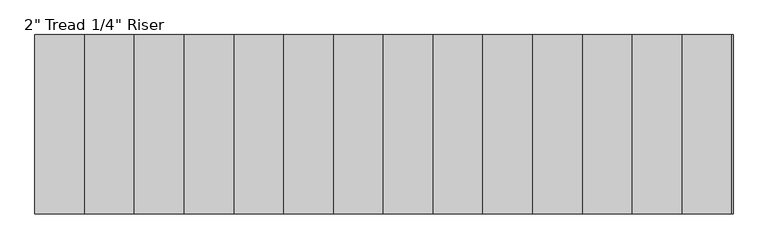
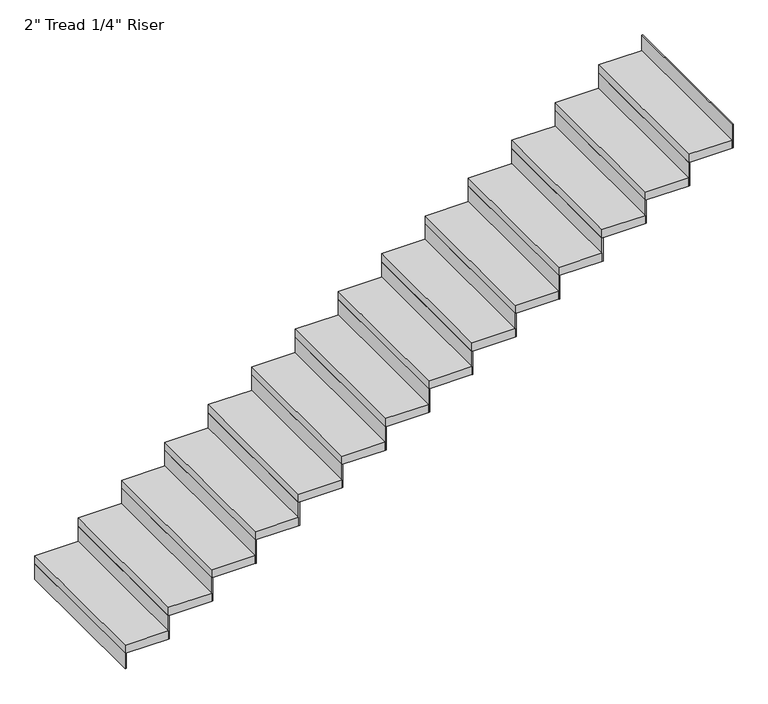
"""IFC4 building model written with IfcOpenShell, lengths in millimetres: stair flight geometry."""

import ifcopenshell
import ifcopenshell.guid

model = None  # the IFC model being written
_history = None  # IfcOwnerHistory: only IFC2X3 demands one
_inside = {}  # id of a spatial element -> (the spatial element, [elements in it])
_under = {}  # id of a project, library or spatial element -> (it, [spatial elements below it])
_declared = {}  # id of a project -> (the project, [libraries it declares])
_typed = {}  # id of a type object -> (the type object, [elements of that type])
_made_of = {}  # id of a material, layer set ... -> (it, [elements and type objects made of it])


def new_model(schema):
    """Start an empty IFC model of exactly this schema.

    Asked for "IFC4X3", IfcOpenShell would pick the latest addendum, in which some entities
    have other attributes; the version numbers below select the first issue.
    IFC2X3 requires an IfcOwnerHistory on every rooted entity: one is made here for all.
    """
    global model, _history
    if schema == "IFC4X3":
        model = ifcopenshell.file(schema_version=(4, 3, 0, 0))
    else:
        model = ifcopenshell.file(schema=schema)
    _inside.clear()
    _under.clear()
    _declared.clear()
    _typed.clear()
    _made_of.clear()
    _history = None
    if model.schema == "IFC2X3":
        org = make("IfcOrganization", Name="unknown")
        user = make(
            "IfcPersonAndOrganization",
            ThePerson=make("IfcPerson", FamilyName="unknown"),
            TheOrganization=org,
        )
        app = make(
            "IfcApplication",
            ApplicationDeveloper=org,
            Version="unknown",
            ApplicationFullName="unknown",
            ApplicationIdentifier="unknown",
        )
        _history = make(
            "IfcOwnerHistory",
            OwningUser=user,
            OwningApplication=app,
            ChangeAction="ADDED",
            CreationDate=0,
        )
    return model


def make(cls, **values):
    """One entity of the class cls with the attributes given. An attribute that is None is left unset."""
    return model.create_entity(
        cls, **{name: value for name, value in values.items() if value is not None}
    )


def rooted(cls, **values):
    """An entity with a GlobalId (a new one), such as an element, a storey or a relation."""
    return make(cls, GlobalId=ifcopenshell.guid.new(), OwnerHistory=_history, **values)


def si_unit(unit_type, name, prefix=None):
    """IfcSIUnit, for example si_unit("LENGTHUNIT", "METRE", prefix="MILLI")."""
    return make("IfcSIUnit", UnitType=unit_type, Prefix=prefix, Name=name)


def assignment(units):
    """IfcUnitAssignment: the units of a project."""
    return None if units is None else make("IfcUnitAssignment", Units=units)


def point(xyz):
    """IfcCartesianPoint."""
    return None if xyz is None else make("IfcCartesianPoint", Coordinates=xyz)


def direction(xyz):
    """IfcDirection."""
    return None if xyz is None else make("IfcDirection", DirectionRatios=xyz)


def frame(location, z_axis=None, x_axis=None):
    """IfcAxis2Placement3D, a coordinate frame: its origin and axes. An axis left out is left unset."""
    return make(
        "IfcAxis2Placement3D",
        Location=point(location),
        Axis=direction(z_axis),
        RefDirection=direction(x_axis),
    )


def origin():
    """The frame at (0, 0, 0) with its axes left unset."""
    return frame((0.0, 0.0, 0.0))


def origin_with_axes():
    """The frame at (0, 0, 0) with the z axis (0, 0, 1) and the x axis (1, 0, 0) written out."""
    return frame((0.0, 0.0, 0.0), z_axis=(0.0, 0.0, 1.0), x_axis=(1.0, 0.0, 0.0))


def place(relative_to, where):
    """IfcLocalPlacement: puts the frame where relative to a parent placement (None: the world)."""
    return make(
        "IfcLocalPlacement", PlacementRelTo=relative_to, RelativePlacement=where
    )


def context(
    kind, dimensions, precision=None, world=None, true_north=None, identifier=None
):
    """IfcGeometricRepresentationContext, for example the 3D "Model" context."""
    return make(
        "IfcGeometricRepresentationContext",
        ContextIdentifier=identifier,
        ContextType=kind,
        CoordinateSpaceDimension=dimensions,
        Precision=precision,
        WorldCoordinateSystem=world,
        TrueNorth=true_north,
    )


def project(units=None, contexts=None):
    """IfcProject with its units and contexts."""
    return rooted(
        "IfcProject",
        Name="project",
        RepresentationContexts=contexts,
        UnitsInContext=assignment(units),
    )


def spatial(cls, under=None, at=None, **own):
    """A site, building, storey or space (cls), placed at a placement, below another one or the project."""
    s = rooted(cls, ObjectPlacement=at, **own)
    if under is not None:
        _under.setdefault(under.id(), (under, []))[1].append(s)
    return s


def polyline(points):
    """IfcPolyline through the points."""
    return make("IfcPolyline", Points=[point(p) for p in points])


def outline(outer, holes=None, kind="AREA"):
    """IfcArbitraryClosedProfileDef: a profile drawn as a closed curve; with holes, ...WithVoids."""
    if holes is None:
        return make("IfcArbitraryClosedProfileDef", ProfileType=kind, OuterCurve=outer)
    return make(
        "IfcArbitraryProfileDefWithVoids",
        ProfileType=kind,
        OuterCurve=outer,
        InnerCurves=holes,
    )


def extrude(swept, where, along, depth):
    """IfcExtrudedAreaSolid: the profile swept, set in the frame where, extruded along a direction by depth."""
    return make(
        "IfcExtrudedAreaSolid",
        SweptArea=swept,
        Position=where,
        ExtrudedDirection=direction(along),
        Depth=depth,
    )


def shape(context_of_items, identifier, shape_type, items):
    """IfcShapeRepresentation: the items that make up one representation, for example the "Body"."""
    return make(
        "IfcShapeRepresentation",
        ContextOfItems=context_of_items,
        RepresentationIdentifier=identifier,
        RepresentationType=shape_type,
        Items=items,
    )


def source(mapping_origin, context_of_items, identifier, shape_type, items):
    """IfcRepresentationMap: a shape defined once, which mapped items show again and again."""
    return make(
        "IfcRepresentationMap",
        MappingOrigin=mapping_origin,
        MappedRepresentation=shape(context_of_items, identifier, shape_type, items),
    )


def transform(
    local_origin,
    x_axis=None,
    y_axis=None,
    z_axis=None,
    scale=None,
    scale2=None,
    scale3=None,
    uniform=True,
):
    """IfcCartesianTransformationOperator3D, or its non-uniform kind. x_axis, y_axis, z_axis: its Axis1, 2, 3."""
    if uniform:
        return make(
            "IfcCartesianTransformationOperator3D",
            Axis1=direction(x_axis),
            Axis2=direction(y_axis),
            LocalOrigin=point(local_origin),
            Scale=scale,
            Axis3=direction(z_axis),
        )
    return make(
        "IfcCartesianTransformationOperator3DnonUniform",
        Axis1=direction(x_axis),
        Axis2=direction(y_axis),
        LocalOrigin=point(local_origin),
        Scale=scale,
        Axis3=direction(z_axis),
        Scale2=scale2,
        Scale3=scale3,
    )


def mapped(mapping_source, mapping_target):
    """IfcMappedItem: shows the shape of a source again, moved by a transform."""
    return make(
        "IfcMappedItem", MappingSource=mapping_source, MappingTarget=mapping_target
    )


def made_of(thing, what):
    """Note that an element or type object is made of a material, layer set ...; save() writes the relation."""
    if what is not None:
        _made_of.setdefault(what.id(), (what, []))[1].append(thing)
    return thing


def element(
    cls,
    number,
    at=None,
    inside=None,
    cuts=None,
    type_object=None,
    material=None,
    context=None,
    identifier="Body",
    shape_type=None,
    held_by="IfcProductDefinitionShape",
    body=None,
    shapes=None,
    **own,
):
    """One element of the class cls, such as IfcWall. Its Tag is "e" and its number.

    at: its placement. inside: the storey or other place that contains it. cuts: it is an
    opening in that element (IfcRelVoidsElement). A single representation is given by context,
    identifier, shape_type and body (its items); several are given by shapes. held_by: the class
    of the entity that holds the representations. save() writes the other relations.
    """
    e = rooted(cls, Tag="e%d" % number, ObjectPlacement=at, **own)
    if body is not None:
        shapes = [shape(context, identifier, shape_type, body)]
    if shapes is not None:
        e.Representation = make(held_by, Representations=shapes)
    if inside is not None:
        _inside.setdefault(inside.id(), (inside, []))[1].append(e)
    if cuts is not None:
        rooted(
            "IfcRelVoidsElement", RelatingBuildingElement=cuts, RelatedOpeningElement=e
        )
    if type_object is not None:
        _typed.setdefault(type_object.id(), (type_object, []))[1].append(e)
    return made_of(e, material)


def aggregate(whole, parts):
    """IfcRelAggregates: a whole, such as a stair, and the parts it consists of."""
    return rooted("IfcRelAggregates", RelatingObject=whole, RelatedObjects=parts)


def save(model, path):
    """Write the relations noted so far, then the file.

    IfcRelAggregates (storeys below a building ...), IfcRelContainedInSpatialStructure (elements
    in a storey), IfcRelDefinesByType, IfcRelAssociatesMaterial and IfcRelDeclares: one each for
    every whole, place, type object, material and project.
    """
    for whole, parts in _under.values():
        aggregate(whole, parts)
    for where, things in _inside.values():
        rooted(
            "IfcRelContainedInSpatialStructure",
            RelatedElements=things,
            RelatingStructure=where,
        )
    for kind, things in _typed.values():
        rooted("IfcRelDefinesByType", RelatedObjects=things, RelatingType=kind)
    for what, things in _made_of.values():
        rooted("IfcRelAssociatesMaterial", RelatedObjects=things, RelatingMaterial=what)
    for by, libraries in _declared.values():
        rooted("IfcRelDeclares", RelatingContext=by, RelatedDefinitions=libraries)
    model.write(path)


def stair_flight_10a90011(model_context):
    return source(origin(), model_context, "Body", "SweptSolid", [
        extrude(outline(polyline([(133292.6740883, 32332.2812523), (133286.3240883, 32332.2812523), (133286.3240883, 33246.6812523), (133292.6740883, 33246.6812523), (133292.6740883, 32332.2812523)])), origin_with_axes(), (0.0, 0.0, 1.0), 94.3428571),
        extrude(outline(polyline([(133540.3240883, 33246.6812523), (133540.3240883, 32332.2812523), (133286.3240883, 32332.2812523), (133286.3240883, 33246.6812523), (133540.3240883, 33246.6812523)])), frame((0.0, 0.0, 94.3428571), z_axis=(0.0, 0.0, 1.0), x_axis=(1.0, 0.0, 0.0)), (0.0, 0.0, 1.0), 50.8),
        extrude(outline(polyline([(133546.6740883, 32332.2812523), (133540.3240883, 32332.2812523), (133540.3240883, 33246.6812523), (133546.6740883, 33246.6812523), (133546.6740883, 32332.2812523)])), frame((0.0, 0.0, 94.3428571), z_axis=(0.0, 0.0, 1.0), x_axis=(1.0, 0.0, 0.0)), (0.0, 0.0, 1.0), 145.1428571),
        extrude(outline(polyline([(133794.3240883, 33246.6812523), (133794.3240883, 32332.2812523), (133540.3240883, 32332.2812523), (133540.3240883, 33246.6812523), (133794.3240883, 33246.6812523)])), frame((0.0, 0.0, 239.4857143), z_axis=(0.0, 0.0, 1.0), x_axis=(1.0, 0.0, 0.0)), (0.0, 0.0, 1.0), 50.8),
        extrude(outline(polyline([(133800.6740883, 32332.2812523), (133794.3240883, 32332.2812523), (133794.3240883, 33246.6812523), (133800.6740883, 33246.6812523), (133800.6740883, 32332.2812523)])), frame((0.0, 0.0, 239.4857143), z_axis=(0.0, 0.0, 1.0), x_axis=(1.0, 0.0, 0.0)), (0.0, 0.0, 1.0), 145.1428571),
        extrude(outline(polyline([(134048.3240883, 33246.6812523), (134048.3240883, 32332.2812523), (133794.3240883, 32332.2812523), (133794.3240883, 33246.6812523), (134048.3240883, 33246.6812523)])), frame((0.0, 0.0, 384.6285714), z_axis=(0.0, 0.0, 1.0), x_axis=(1.0, 0.0, 0.0)), (0.0, 0.0, 1.0), 50.8),
        extrude(outline(polyline([(134054.6740883, 32332.2812523), (134048.3240883, 32332.2812523), (134048.3240883, 33246.6812523), (134054.6740883, 33246.6812523), (134054.6740883, 32332.2812523)])), frame((0.0, 0.0, 384.6285714), z_axis=(0.0, 0.0, 1.0), x_axis=(1.0, 0.0, 0.0)), (0.0, 0.0, 1.0), 145.1428571),
        extrude(outline(polyline([(134302.3240883, 33246.6812523), (134302.3240883, 32332.2812523), (134048.3240883, 32332.2812523), (134048.3240883, 33246.6812523), (134302.3240883, 33246.6812523)])), frame((0.0, 0.0, 529.7714286), z_axis=(0.0, 0.0, 1.0), x_axis=(1.0, 0.0, 0.0)), (0.0, 0.0, 1.0), 50.8),
        extrude(outline(polyline([(134308.6740883, 32332.2812523), (134302.3240883, 32332.2812523), (134302.3240883, 33246.6812523), (134308.6740883, 33246.6812523), (134308.6740883, 32332.2812523)])), frame((0.0, 0.0, 529.7714286), z_axis=(0.0, 0.0, 1.0), x_axis=(1.0, 0.0, 0.0)), (0.0, 0.0, 1.0), 145.1428571),
        extrude(outline(polyline([(134556.3240883, 33246.6812523), (134556.3240883, 32332.2812523), (134302.3240883, 32332.2812523), (134302.3240883, 33246.6812523), (134556.3240883, 33246.6812523)])), frame((0.0, 0.0, 674.9142857), z_axis=(0.0, 0.0, 1.0), x_axis=(1.0, 0.0, 0.0)), (0.0, 0.0, 1.0), 50.8),
        extrude(outline(polyline([(134562.6740883, 32332.2812523), (134556.3240883, 32332.2812523), (134556.3240883, 33246.6812523), (134562.6740883, 33246.6812523), (134562.6740883, 32332.2812523)])), frame((0.0, 0.0, 674.9142857), z_axis=(0.0, 0.0, 1.0), x_axis=(1.0, 0.0, 0.0)), (0.0, 0.0, 1.0), 145.1428571),
        extrude(outline(polyline([(134810.3240883, 33246.6812523), (134810.3240883, 32332.2812523), (134556.3240883, 32332.2812523), (134556.3240883, 33246.6812523), (134810.3240883, 33246.6812523)])), frame((0.0, 0.0, 820.0571429), z_axis=(0.0, 0.0, 1.0), x_axis=(1.0, 0.0, 0.0)), (0.0, 0.0, 1.0), 50.8),
        extrude(outline(polyline([(134816.6740883, 32332.2812523), (134810.3240883, 32332.2812523), (134810.3240883, 33246.6812523), (134816.6740883, 33246.6812523), (134816.6740883, 32332.2812523)])), frame((0.0, 0.0, 820.0571429), z_axis=(0.0, 0.0, 1.0), x_axis=(1.0, 0.0, 0.0)), (0.0, 0.0, 1.0), 145.1428571),
        extrude(outline(polyline([(135064.3240883, 33246.6812523), (135064.3240883, 32332.2812523), (134810.3240883, 32332.2812523), (134810.3240883, 33246.6812523), (135064.3240883, 33246.6812523)])), frame((0.0, 0.0, 965.2), z_axis=(0.0, 0.0, 1.0), x_axis=(1.0, 0.0, 0.0)), (0.0, 0.0, 1.0), 50.8),
        extrude(outline(polyline([(135070.6740883, 32332.2812523), (135064.3240883, 32332.2812523), (135064.3240883, 33246.6812523), (135070.6740883, 33246.6812523), (135070.6740883, 32332.2812523)])), frame((0.0, 0.0, 965.2), z_axis=(0.0, 0.0, 1.0), x_axis=(1.0, 0.0, 0.0)), (0.0, 0.0, 1.0), 145.1428571),
        extrude(outline(polyline([(135318.3240883, 33246.6812523), (135318.3240883, 32332.2812523), (135064.3240883, 32332.2812523), (135064.3240883, 33246.6812523), (135318.3240883, 33246.6812523)])), frame((0.0, 0.0, 1110.3428571), z_axis=(0.0, 0.0, 1.0), x_axis=(1.0, 0.0, 0.0)), (0.0, 0.0, 1.0), 50.8),
        extrude(outline(polyline([(135324.6740883, 32332.2812523), (135318.3240883, 32332.2812523), (135318.3240883, 33246.6812523), (135324.6740883, 33246.6812523), (135324.6740883, 32332.2812523)])), frame((0.0, 0.0, 1110.3428571), z_axis=(0.0, 0.0, 1.0), x_axis=(1.0, 0.0, 0.0)), (0.0, 0.0, 1.0), 145.1428571),
        extrude(outline(polyline([(135572.3240883, 33246.6812523), (135572.3240883, 32332.2812523), (135318.3240883, 32332.2812523), (135318.3240883, 33246.6812523), (135572.3240883, 33246.6812523)])), frame((0.0, 0.0, 1255.4857143), z_axis=(0.0, 0.0, 1.0), x_axis=(1.0, 0.0, 0.0)), (0.0, 0.0, 1.0), 50.8),
        extrude(outline(polyline([(135578.6740883, 32332.2812523), (135572.3240883, 32332.2812523), (135572.3240883, 33246.6812523), (135578.6740883, 33246.6812523), (135578.6740883, 32332.2812523)])), frame((0.0, 0.0, 1255.4857143), z_axis=(0.0, 0.0, 1.0), x_axis=(1.0, 0.0, 0.0)), (0.0, 0.0, 1.0), 145.1428571),
        extrude(outline(polyline([(135826.3240883, 33246.6812523), (135826.3240883, 32332.2812523), (135572.3240883, 32332.2812523), (135572.3240883, 33246.6812523), (135826.3240883, 33246.6812523)])), frame((0.0, 0.0, 1400.6285714), z_axis=(0.0, 0.0, 1.0), x_axis=(1.0, 0.0, 0.0)), (0.0, 0.0, 1.0), 50.8),
        extrude(outline(polyline([(135832.6740883, 32332.2812523), (135826.3240883, 32332.2812523), (135826.3240883, 33246.6812523), (135832.6740883, 33246.6812523), (135832.6740883, 32332.2812523)])), frame((0.0, 0.0, 1400.6285714), z_axis=(0.0, 0.0, 1.0), x_axis=(1.0, 0.0, 0.0)), (0.0, 0.0, 1.0), 145.1428571),
        extrude(outline(polyline([(136080.3240883, 33246.6812523), (136080.3240883, 32332.2812523), (135826.3240883, 32332.2812523), (135826.3240883, 33246.6812523), (136080.3240883, 33246.6812523)])), frame((0.0, 0.0, 1545.7714286), z_axis=(0.0, 0.0, 1.0), x_axis=(1.0, 0.0, 0.0)), (0.0, 0.0, 1.0), 50.8),
        extrude(outline(polyline([(136086.6740883, 32332.2812523), (136080.3240883, 32332.2812523), (136080.3240883, 33246.6812523), (136086.6740883, 33246.6812523), (136086.6740883, 32332.2812523)])), frame((0.0, 0.0, 1545.7714286), z_axis=(0.0, 0.0, 1.0), x_axis=(1.0, 0.0, 0.0)), (0.0, 0.0, 1.0), 145.1428571),
        extrude(outline(polyline([(136334.3240883, 33246.6812523), (136334.3240883, 32332.2812523), (136080.3240883, 32332.2812523), (136080.3240883, 33246.6812523), (136334.3240883, 33246.6812523)])), frame((0.0, 0.0, 1690.9142857), z_axis=(0.0, 0.0, 1.0), x_axis=(1.0, 0.0, 0.0)), (0.0, 0.0, 1.0), 50.8),
        extrude(outline(polyline([(136340.6740883, 32332.2812523), (136334.3240883, 32332.2812523), (136334.3240883, 33246.6812523), (136340.6740883, 33246.6812523), (136340.6740883, 32332.2812523)])), frame((0.0, 0.0, 1690.9142857), z_axis=(0.0, 0.0, 1.0), x_axis=(1.0, 0.0, 0.0)), (0.0, 0.0, 1.0), 145.1428571),
        extrude(outline(polyline([(136588.3240883, 33246.6812523), (136588.3240883, 32332.2812523), (136334.3240883, 32332.2812523), (136334.3240883, 33246.6812523), (136588.3240883, 33246.6812523)])), frame((0.0, 0.0, 1836.0571429), z_axis=(0.0, 0.0, 1.0), x_axis=(1.0, 0.0, 0.0)), (0.0, 0.0, 1.0), 50.8),
        extrude(outline(polyline([(136594.6740883, 32332.2812523), (136588.3240883, 32332.2812523), (136588.3240883, 33246.6812523), (136594.6740883, 33246.6812523), (136594.6740883, 32332.2812523)])), frame((0.0, 0.0, 1836.0571429), z_axis=(0.0, 0.0, 1.0), x_axis=(1.0, 0.0, 0.0)), (0.0, 0.0, 1.0), 145.1428571),
        extrude(outline(polyline([(136848.6740883, 32332.2812523), (136842.3240883, 32332.2812523), (136842.3240883, 33246.6812523), (136848.6740883, 33246.6812523), (136848.6740883, 32332.2812523)])), frame((0.0, 0.0, 1981.2), z_axis=(0.0, 0.0, 1.0), x_axis=(1.0, 0.0, 0.0)), (0.0, 0.0, 1.0), 145.1428571),
        extrude(outline(polyline([(136842.3240883, 33246.6812523), (136842.3240883, 32332.2812523), (136588.3240883, 32332.2812523), (136588.3240883, 33246.6812523), (136842.3240883, 33246.6812523)])), frame((0.0, 0.0, 1981.2), z_axis=(0.0, 0.0, 1.0), x_axis=(1.0, 0.0, 0.0)), (0.0, 0.0, 1.0), 50.8),
    ])


if __name__ == "__main__":
    model = new_model("IFC4")
    model_context = context("Model", 3, world=origin())
    ifc_project = project(units=[si_unit("LENGTHUNIT", "METRE", prefix="MILLI")], contexts=[model_context])
    site = spatial("IfcSite", under=ifc_project)
    building = spatial("IfcBuilding", under=site)
    placement = place(None, origin())
    stair_flight_shape = stair_flight_10a90011(model_context)
    element("IfcStairFlight", 1, ObjectType="2\" Tread 1/4\" Riser", at=placement, inside=building, context=model_context, shape_type="MappedRepresentation", body=[
        mapped(stair_flight_shape, transform((0.0, 0.0, 0.0), x_axis=(1.0, 0.0, 0.0), y_axis=(0.0, 1.0, 0.0), z_axis=(0.0, 0.0, 1.0))),
    ])
    save(model, "model.ifc")
